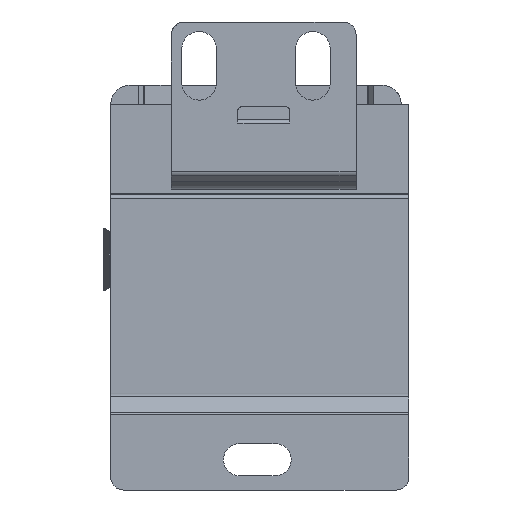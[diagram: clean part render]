
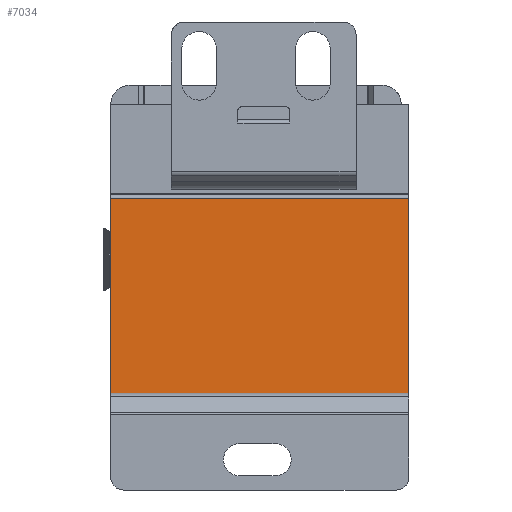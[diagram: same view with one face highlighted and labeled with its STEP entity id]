
A CAD part, front view. The second image highlights one B-rep face of the part: STEP entity #7034.
In plain terms, the highlighted planar face has unit normal (0, -1, 0).
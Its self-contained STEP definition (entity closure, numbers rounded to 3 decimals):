
#72=PLANE('',#7554);
#504=LINE('',#11123,#1182);
#505=LINE('',#11125,#1183);
#506=LINE('',#11127,#1184);
#507=LINE('',#11129,#1185);
#1182=VECTOR('',#8765,1000.);
#1183=VECTOR('',#8768,1000.);
#1184=VECTOR('',#8769,1000.);
#1185=VECTOR('',#8770,1000.);
#2280=ORIENTED_EDGE('',*,*,#4169,.T.);
#2281=ORIENTED_EDGE('',*,*,#4168,.T.);
#2282=ORIENTED_EDGE('',*,*,#4170,.T.);
#2283=ORIENTED_EDGE('',*,*,#4171,.F.);
#4168=EDGE_CURVE('',#5133,#5134,#504,.T.);
#4169=EDGE_CURVE('',#5135,#5133,#505,.T.);
#4170=EDGE_CURVE('',#5134,#5136,#506,.T.);
#4171=EDGE_CURVE('',#5135,#5136,#507,.T.);
#5133=VERTEX_POINT('',#11120);
#5134=VERTEX_POINT('',#11122);
#5135=VERTEX_POINT('',#11126);
#5136=VERTEX_POINT('',#11128);
#6095=EDGE_LOOP('',(#2280,#2281,#2282,#2283));
#6493=FACE_BOUND('',#6095,.T.);
#7034=ADVANCED_FACE('',(#6493),#72,.F.);
#7554=AXIS2_PLACEMENT_3D('',#11124,#8766,#8767);
#8765=DIRECTION('',(1.,0.,0.));
#8766=DIRECTION('',(0.,1.,0.));
#8767=DIRECTION('',(1.,0.,0.));
#8768=DIRECTION('',(0.,0.,-1.));
#8769=DIRECTION('',(0.,0.,1.));
#8770=DIRECTION('',(1.,0.,0.));
#11120=CARTESIAN_POINT('',(-23.1,6.,-46.5));
#11122=CARTESIAN_POINT('',(23.1,6.,-46.5));
#11123=CARTESIAN_POINT('',(-23.1,6.,-46.5));
#11124=CARTESIAN_POINT('',(30.,6.,-14.5));
#11125=CARTESIAN_POINT('',(-23.1,6.,-14.5));
#11126=CARTESIAN_POINT('',(-23.1,6.,-14.5));
#11127=CARTESIAN_POINT('',(23.1,6.,-46.5));
#11128=CARTESIAN_POINT('',(23.1,6.,-14.5));
#11129=CARTESIAN_POINT('',(-23.1,6.,-14.5));
